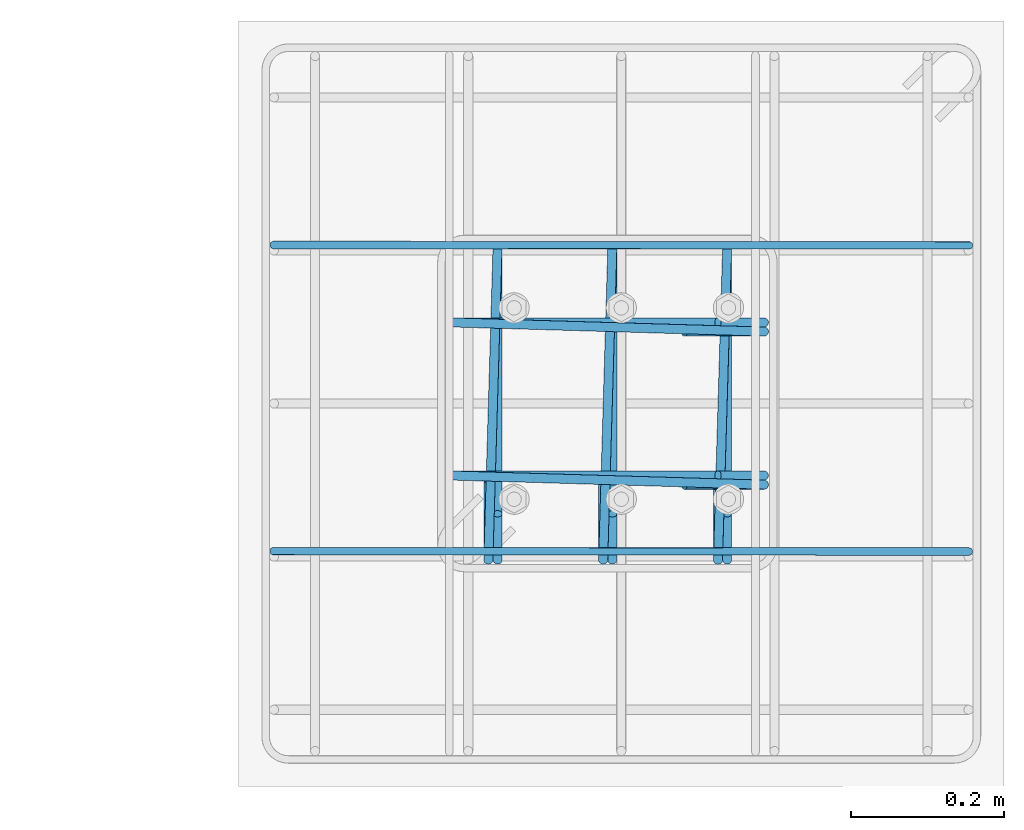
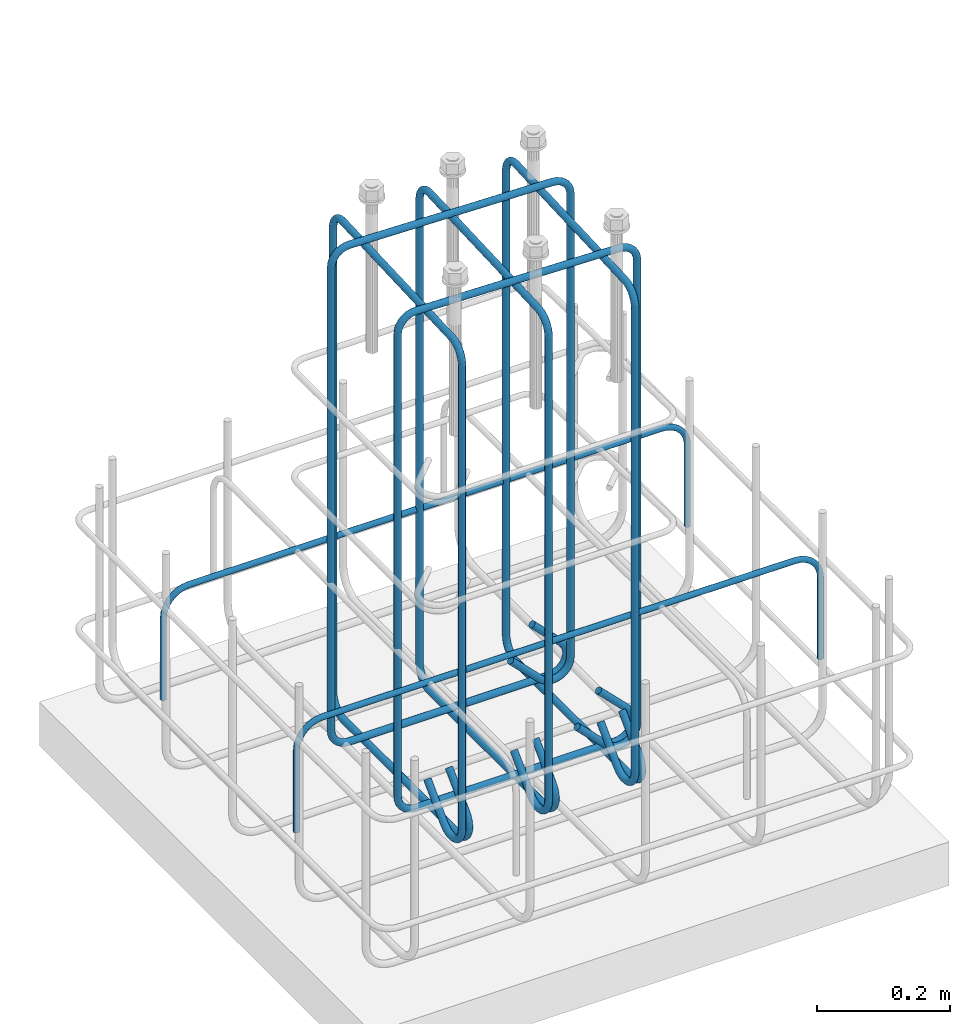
# One storey, part 10 of 12: 3 reinforcing bars.
"""IFC4X3_ADD2 building model written with IfcOpenShell, lengths in millimetres."""

from ifc_helpers import new_model, entity, si_unit, converted_unit, derived_unit, direction, frame, origin, place, context, subcontext, project, spatial, material, type_object, element, save


model = new_model("IFC4X3_ADD2")

# Units and contexts
model_context = context("Model", 3, precision=0.01, world=origin(), true_north=direction((6.123233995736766e-17, 1.0)))
plan_context = context("Plan", 3, precision=0.01, world=origin(), true_north=direction((6.123233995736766e-17, 1.0)))
body_context = subcontext(model_context, "Body", "Model", "MODEL_VIEW")
ifc_project = project(units=[si_unit("LENGTHUNIT", "METRE", prefix="MILLI"), converted_unit("PLANEANGLEUNIT", "DEGREE", entity("IfcPlaneAngleMeasure", 0.017453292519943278), si_unit("PLANEANGLEUNIT", "RADIAN"), dimensions=[0, 0, 0, 0, 0, 0, 0]), si_unit("AREAUNIT", "SQUARE_METRE"), si_unit("VOLUMEUNIT", "CUBIC_METRE"), derived_unit("THERMALTRANSMITTANCEUNIT", [(si_unit("MASSUNIT", "GRAM", prefix="KILO"), 1), (si_unit("THERMODYNAMICTEMPERATUREUNIT", "KELVIN"), -1), (si_unit("TIMEUNIT", "SECOND"), -3)]), derived_unit("USERDEFINED", [(si_unit("MASSUNIT", "GRAM", prefix="KILO"), 1), (si_unit("THERMODYNAMICTEMPERATUREUNIT", "KELVIN"), -1), (si_unit("TIMEUNIT", "SECOND"), -2)]), derived_unit("THERMALRESISTANCEUNIT", [(si_unit("MASSUNIT", "GRAM", prefix="KILO"), -1), (si_unit("TIMEUNIT", "SECOND"), 3), (si_unit("THERMODYNAMICTEMPERATUREUNIT", "KELVIN"), 1)]), si_unit("MASSUNIT", "GRAM", prefix="KILO"), derived_unit("MOMENTOFINERTIAUNIT", [(si_unit("LENGTHUNIT", "METRE"), 4)]), derived_unit("LINEARFORCEUNIT", [(si_unit("MASSUNIT", "GRAM", prefix="KILO"), 1), (si_unit("TIMEUNIT", "SECOND"), -2)]), derived_unit("WARPINGCONSTANTUNIT", [(si_unit("LENGTHUNIT", "METRE"), 6)]), si_unit("PRESSUREUNIT", "PASCAL"), derived_unit("MASSDENSITYUNIT", [(si_unit("MASSUNIT", "GRAM", prefix="KILO"), 1), (si_unit("LENGTHUNIT", "METRE"), -3)]), derived_unit("MODULUSOFELASTICITYUNIT", [(si_unit("MASSUNIT", "GRAM", prefix="KILO"), 1), (si_unit("TIMEUNIT", "SECOND"), -2), (si_unit("LENGTHUNIT", "METRE"), -1)]), derived_unit("THERMALEXPANSIONCOEFFICIENTUNIT", [(si_unit("THERMODYNAMICTEMPERATUREUNIT", "KELVIN"), -1)]), derived_unit("VAPORPERMEABILITYUNIT", [(si_unit("LENGTHUNIT", "METRE"), -1), (si_unit("TIMEUNIT", "SECOND"), 1)]), derived_unit("USERDEFINED", [(si_unit("MASSUNIT", "GRAM", prefix="KILO"), 1), (si_unit("TIMEUNIT", "SECOND"), -3), (si_unit("LENGTHUNIT", "METRE"), 3), (si_unit("ELECTRICCURRENTUNIT", "AMPERE"), -2)]), derived_unit("SPECIFICHEATCAPACITYUNIT", [(si_unit("THERMODYNAMICTEMPERATUREUNIT", "KELVIN"), -1), (si_unit("TIMEUNIT", "SECOND"), -2), (si_unit("LENGTHUNIT", "METRE"), 2)]), derived_unit("THERMALCONDUCTANCEUNIT", [(si_unit("MASSUNIT", "GRAM", prefix="KILO"), 1), (si_unit("THERMODYNAMICTEMPERATUREUNIT", "KELVIN"), -1), (si_unit("TIMEUNIT", "SECOND"), -3), (si_unit("LENGTHUNIT", "METRE"), 1)])], contexts=[model_context, plan_context])

# Site, building, storey
site_placement = place(None, origin())
site = spatial("IfcSite", under=ifc_project, at=site_placement, Name="Default", CompositionType="ELEMENT")
building_placement = place(site_placement, origin())
building = spatial("IfcBuilding", under=site, at=building_placement, Name="Complex structure", CompositionType="ELEMENT")
storey_placement = place(building_placement, frame((0.0, 0.0, -1200.0)))
storey = spatial("IfcBuildingStorey", under=building, at=storey_placement, Name="Level -03", CompositionType="ELEMENT", Elevation=-1200.0)

# Reinforcing bars
ifc_material = material(Name="Steel Rebar - B500A, B or C", Category="Unassigned")
reinforcing_bar_type_1 = type_object("IfcReinforcingBarType", Name="Rebar Bar:12mm", PredefinedType="NOTDEFINED")
reinforcing_bar_1_placement = place(storey_placement, origin())
ifc_direction_1 = entity("IfcDirection", [1.0, 0.0, 0.0])
ifc_direction_2 = entity("IfcDirection", [1.0, 0.0, 0.0])
ifc_direction_3 = entity("IfcDirection", [1.0, 0.0, 0.0])
element("IfcReinforcingBar", 1, at=reinforcing_bar_1_placement, inside=storey, type_object=reinforcing_bar_type_1, material=ifc_material, Name="Rebar Bar:12mm : Shape 52", ObjectType="Rebar Bar:12mm", context=body_context, shape_type="AdvancedSweptSolid", body=[
    entity("IfcSweptDiskSolid", entity("IfcCompositeCurve", [entity("IfcCompositeCurveSegment", "CONTINUOUS", True, entity("IfcPolyline", [entity("IfcCartesianPoint", [-1306.8715503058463, -1426.8753259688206, 151.83199846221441]), entity("IfcCartesianPoint", [-1306.8715503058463, -1477.787014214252, 100.92031021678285])])), entity("IfcCompositeCurveSegment", "CONTINUOUS", True, entity("IfcTrimmedCurve", entity("IfcCircle", entity("IfcAxis2Placement3D", entity("IfcCartesianPoint", [-1306.8715503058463, -1455.866703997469, 79.0]), ifc_direction_1, entity("IfcDirection", [0.0, -0.7071067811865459, -0.7071067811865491])), 31.0), [entity("IfcParameterValue", 269.9999999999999)], [entity("IfcParameterValue", 44.99999999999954)], True, "PARAMETER")), entity("IfcCompositeCurveSegment", "CONTINUOUS", True, entity("IfcPolyline", [entity("IfcCartesianPoint", [-1306.8715503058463, -1455.866703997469, 48.0]), entity("IfcCartesianPoint", [-1306.8715503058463, -1109.866703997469, 48.0])])), entity("IfcCompositeCurveSegment", "CONTINUOUS", True, entity("IfcTrimmedCurve", entity("IfcCircle", entity("IfcAxis2Placement3D", entity("IfcCartesianPoint", [-1306.8715503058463, -1109.866703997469, 79.0]), ifc_direction_1, entity("IfcDirection", [0.0, 1.0, 0.0])), 31.0), [entity("IfcParameterValue", 269.9999999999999)], [entity("IfcParameterValue", 360.00000000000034)], True, "PARAMETER")), entity("IfcCompositeCurveSegment", "CONTINUOUS", True, entity("IfcPolyline", [entity("IfcCartesianPoint", [-1306.8715503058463, -1078.866703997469, 79.0]), entity("IfcCartesianPoint", [-1306.8715503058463, -1078.866703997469, 930.0])])), entity("IfcCompositeCurveSegment", "CONTINUOUS", True, entity("IfcTrimmedCurve", entity("IfcCircle", entity("IfcAxis2Placement3D", entity("IfcCartesianPoint", [-1307.7829209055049, -1109.8533043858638, 930.0]), entity("IfcDirection", [0.9995677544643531, -0.02939905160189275, 0.0]), entity("IfcDirection", [0.0, 0.0, 1.0])), 31.0), [entity("IfcParameterValue", 269.9999999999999)], [entity("IfcParameterValue", 360.00000000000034)], True, "PARAMETER")), entity("IfcCompositeCurveSegment", "CONTINUOUS", True, entity("IfcPolyline", [entity("IfcCartesianPoint", [-1307.7829209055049, -1109.8533043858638, 961.0]), entity("IfcCartesianPoint", [-1317.9601797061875, -1455.8801036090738, 961.0])])), entity("IfcCompositeCurveSegment", "CONTINUOUS", True, entity("IfcTrimmedCurve", entity("IfcCircle", entity("IfcAxis2Placement3D", entity("IfcCartesianPoint", [-1317.9601797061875, -1455.8801036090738, 930.0]), entity("IfcDirection", [0.9995677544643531, -0.02939905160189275, 0.0]), entity("IfcDirection", [-0.02939905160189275, -0.9995677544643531, 0.0])), 31.0), [entity("IfcParameterValue", 269.9999999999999)], [entity("IfcParameterValue", 360.00000000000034)], True, "PARAMETER")), entity("IfcCompositeCurveSegment", "CONTINUOUS", True, entity("IfcPolyline", [entity("IfcCartesianPoint", [-1318.871550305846, -1486.866703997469, 930.0]), entity("IfcCartesianPoint", [-1318.871550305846, -1486.866703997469, 79.0])])), entity("IfcCompositeCurveSegment", "CONTINUOUS", True, entity("IfcTrimmedCurve", entity("IfcCircle", entity("IfcAxis2Placement3D", entity("IfcCartesianPoint", [-1318.871550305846, -1455.866703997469, 79.0]), ifc_direction_1, entity("IfcDirection", [0.0, 0.0, -1.0])), 31.0), [entity("IfcParameterValue", 269.9999999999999)], [entity("IfcParameterValue", 44.99999999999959)], True, "PARAMETER")), entity("IfcCompositeCurveSegment", "CONTINUOUS", True, entity("IfcPolyline", [entity("IfcCartesianPoint", [-1318.871550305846, -1433.9463937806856, 57.0796897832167]), entity("IfcCartesianPoint", [-1318.871550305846, -1383.0347055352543, 107.99137802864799])]))], False), 6.0, None, 0.0, 546.0000000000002),
    entity("IfcSweptDiskSolid", entity("IfcCompositeCurve", [entity("IfcCompositeCurveSegment", "CONTINUOUS", True, entity("IfcPolyline", [entity("IfcCartesianPoint", [-1156.8715503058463, -1426.8753259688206, 151.83199846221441]), entity("IfcCartesianPoint", [-1156.8715503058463, -1477.787014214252, 100.92031021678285])])), entity("IfcCompositeCurveSegment", "CONTINUOUS", True, entity("IfcTrimmedCurve", entity("IfcCircle", entity("IfcAxis2Placement3D", entity("IfcCartesianPoint", [-1156.8715503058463, -1455.866703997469, 79.0]), ifc_direction_2, entity("IfcDirection", [0.0, -0.7071067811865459, -0.7071067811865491])), 31.0), [entity("IfcParameterValue", 269.9999999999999)], [entity("IfcParameterValue", 44.99999999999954)], True, "PARAMETER")), entity("IfcCompositeCurveSegment", "CONTINUOUS", True, entity("IfcPolyline", [entity("IfcCartesianPoint", [-1156.8715503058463, -1455.866703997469, 48.0]), entity("IfcCartesianPoint", [-1156.8715503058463, -1109.866703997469, 48.0])])), entity("IfcCompositeCurveSegment", "CONTINUOUS", True, entity("IfcTrimmedCurve", entity("IfcCircle", entity("IfcAxis2Placement3D", entity("IfcCartesianPoint", [-1156.8715503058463, -1109.866703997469, 79.0]), ifc_direction_2, entity("IfcDirection", [0.0, 1.0, 0.0])), 31.0), [entity("IfcParameterValue", 269.9999999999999)], [entity("IfcParameterValue", 360.00000000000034)], True, "PARAMETER")), entity("IfcCompositeCurveSegment", "CONTINUOUS", True, entity("IfcPolyline", [entity("IfcCartesianPoint", [-1156.8715503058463, -1078.866703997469, 79.0]), entity("IfcCartesianPoint", [-1156.8715503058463, -1078.866703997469, 930.0])])), entity("IfcCompositeCurveSegment", "CONTINUOUS", True, entity("IfcTrimmedCurve", entity("IfcCircle", entity("IfcAxis2Placement3D", entity("IfcCartesianPoint", [-1157.7829209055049, -1109.8533043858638, 930.0]), entity("IfcDirection", [0.9995677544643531, -0.02939905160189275, 0.0]), entity("IfcDirection", [0.0, 0.0, 1.0])), 31.0), [entity("IfcParameterValue", 269.9999999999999)], [entity("IfcParameterValue", 360.00000000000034)], True, "PARAMETER")), entity("IfcCompositeCurveSegment", "CONTINUOUS", True, entity("IfcPolyline", [entity("IfcCartesianPoint", [-1157.7829209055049, -1109.8533043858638, 961.0]), entity("IfcCartesianPoint", [-1167.9601797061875, -1455.8801036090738, 961.0])])), entity("IfcCompositeCurveSegment", "CONTINUOUS", True, entity("IfcTrimmedCurve", entity("IfcCircle", entity("IfcAxis2Placement3D", entity("IfcCartesianPoint", [-1167.9601797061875, -1455.8801036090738, 930.0]), entity("IfcDirection", [0.9995677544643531, -0.02939905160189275, 0.0]), entity("IfcDirection", [-0.02939905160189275, -0.9995677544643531, 0.0])), 31.0), [entity("IfcParameterValue", 269.9999999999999)], [entity("IfcParameterValue", 360.00000000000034)], True, "PARAMETER")), entity("IfcCompositeCurveSegment", "CONTINUOUS", True, entity("IfcPolyline", [entity("IfcCartesianPoint", [-1168.871550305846, -1486.866703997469, 930.0]), entity("IfcCartesianPoint", [-1168.871550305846, -1486.866703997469, 79.0])])), entity("IfcCompositeCurveSegment", "CONTINUOUS", True, entity("IfcTrimmedCurve", entity("IfcCircle", entity("IfcAxis2Placement3D", entity("IfcCartesianPoint", [-1168.871550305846, -1455.866703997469, 79.0]), ifc_direction_2, entity("IfcDirection", [0.0, 0.0, -1.0])), 31.0), [entity("IfcParameterValue", 269.9999999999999)], [entity("IfcParameterValue", 44.99999999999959)], True, "PARAMETER")), entity("IfcCompositeCurveSegment", "CONTINUOUS", True, entity("IfcPolyline", [entity("IfcCartesianPoint", [-1168.871550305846, -1433.9463937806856, 57.0796897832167]), entity("IfcCartesianPoint", [-1168.871550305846, -1383.0347055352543, 107.99137802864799])]))], False), 6.0, None, 0.0, 546.0000000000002),
    entity("IfcSweptDiskSolid", entity("IfcCompositeCurve", [entity("IfcCompositeCurveSegment", "CONTINUOUS", True, entity("IfcPolyline", [entity("IfcCartesianPoint", [-1006.8715503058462, -1426.8753259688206, 151.83199846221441]), entity("IfcCartesianPoint", [-1006.8715503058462, -1477.787014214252, 100.92031021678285])])), entity("IfcCompositeCurveSegment", "CONTINUOUS", True, entity("IfcTrimmedCurve", entity("IfcCircle", entity("IfcAxis2Placement3D", entity("IfcCartesianPoint", [-1006.8715503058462, -1455.866703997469, 79.0]), ifc_direction_3, entity("IfcDirection", [0.0, -0.7071067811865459, -0.7071067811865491])), 31.0), [entity("IfcParameterValue", 269.9999999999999)], [entity("IfcParameterValue", 44.99999999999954)], True, "PARAMETER")), entity("IfcCompositeCurveSegment", "CONTINUOUS", True, entity("IfcPolyline", [entity("IfcCartesianPoint", [-1006.8715503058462, -1455.866703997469, 48.0]), entity("IfcCartesianPoint", [-1006.8715503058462, -1109.866703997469, 48.0])])), entity("IfcCompositeCurveSegment", "CONTINUOUS", True, entity("IfcTrimmedCurve", entity("IfcCircle", entity("IfcAxis2Placement3D", entity("IfcCartesianPoint", [-1006.8715503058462, -1109.866703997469, 79.0]), ifc_direction_3, entity("IfcDirection", [0.0, 1.0, 0.0])), 31.0), [entity("IfcParameterValue", 269.9999999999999)], [entity("IfcParameterValue", 360.00000000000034)], True, "PARAMETER")), entity("IfcCompositeCurveSegment", "CONTINUOUS", True, entity("IfcPolyline", [entity("IfcCartesianPoint", [-1006.8715503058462, -1078.866703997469, 79.0]), entity("IfcCartesianPoint", [-1006.8715503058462, -1078.866703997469, 930.0])])), entity("IfcCompositeCurveSegment", "CONTINUOUS", True, entity("IfcTrimmedCurve", entity("IfcCircle", entity("IfcAxis2Placement3D", entity("IfcCartesianPoint", [-1007.7829209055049, -1109.8533043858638, 930.0]), entity("IfcDirection", [0.9995677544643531, -0.02939905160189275, 0.0]), entity("IfcDirection", [0.0, 0.0, 1.0])), 31.0), [entity("IfcParameterValue", 269.9999999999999)], [entity("IfcParameterValue", 360.00000000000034)], True, "PARAMETER")), entity("IfcCompositeCurveSegment", "CONTINUOUS", True, entity("IfcPolyline", [entity("IfcCartesianPoint", [-1007.7829209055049, -1109.8533043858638, 961.0]), entity("IfcCartesianPoint", [-1017.9601797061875, -1455.8801036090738, 961.0])])), entity("IfcCompositeCurveSegment", "CONTINUOUS", True, entity("IfcTrimmedCurve", entity("IfcCircle", entity("IfcAxis2Placement3D", entity("IfcCartesianPoint", [-1017.9601797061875, -1455.8801036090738, 930.0]), entity("IfcDirection", [0.9995677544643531, -0.02939905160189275, 0.0]), entity("IfcDirection", [-0.02939905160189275, -0.9995677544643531, 0.0])), 31.0), [entity("IfcParameterValue", 269.9999999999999)], [entity("IfcParameterValue", 360.00000000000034)], True, "PARAMETER")), entity("IfcCompositeCurveSegment", "CONTINUOUS", True, entity("IfcPolyline", [entity("IfcCartesianPoint", [-1018.8715503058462, -1486.866703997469, 930.0]), entity("IfcCartesianPoint", [-1018.8715503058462, -1486.866703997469, 79.0])])), entity("IfcCompositeCurveSegment", "CONTINUOUS", True, entity("IfcTrimmedCurve", entity("IfcCircle", entity("IfcAxis2Placement3D", entity("IfcCartesianPoint", [-1018.8715503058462, -1455.866703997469, 79.0]), ifc_direction_3, entity("IfcDirection", [0.0, 0.0, -1.0])), 31.0), [entity("IfcParameterValue", 269.9999999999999)], [entity("IfcParameterValue", 44.99999999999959)], True, "PARAMETER")), entity("IfcCompositeCurveSegment", "CONTINUOUS", True, entity("IfcPolyline", [entity("IfcCartesianPoint", [-1018.8715503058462, -1433.9463937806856, 57.0796897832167]), entity("IfcCartesianPoint", [-1018.8715503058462, -1383.0347055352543, 107.99137802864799])]))], False), 6.0, None, 0.0, 546.0000000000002),
])
reinforcing_bar_2_placement = place(storey_placement, origin())
ifc_direction_4 = entity("IfcDirection", [0.0, 1.0, 0.0])
ifc_direction_5 = entity("IfcDirection", [0.0, 1.0, 0.0])
element("IfcReinforcingBar", 2, at=reinforcing_bar_2_placement, inside=storey, type_object=reinforcing_bar_type_1, material=ifc_material, Name="Rebar Bar:12mm : Shape 52", ObjectType="Rebar Bar:12mm", context=body_context, shape_type="AdvancedSweptSolid", body=[
    entity("IfcSweptDiskSolid", entity("IfcCompositeCurve", [entity("IfcCompositeCurveSegment", "CONTINUOUS", True, entity("IfcPolyline", [entity("IfcCartesianPoint", [-1018.8629283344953, -1376.86670399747, 161.83199846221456]), entity("IfcCartesianPoint", [-967.951240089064, -1376.8667039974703, 110.92031021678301])])), entity("IfcCompositeCurveSegment", "CONTINUOUS", True, entity("IfcTrimmedCurve", entity("IfcCircle", entity("IfcAxis2Placement3D", entity("IfcCartesianPoint", [-989.8715503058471, -1376.8667039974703, 89.0]), ifc_direction_4, entity("IfcDirection", [0.7071067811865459, 0.0, -0.7071067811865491])), 31.0), [entity("IfcParameterValue", 269.9999999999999)], [entity("IfcParameterValue", 44.99999999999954)], True, "PARAMETER")), entity("IfcCompositeCurveSegment", "CONTINUOUS", True, entity("IfcPolyline", [entity("IfcCartesianPoint", [-989.8715503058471, -1376.8667039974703, 58.0]), entity("IfcCartesianPoint", [-1335.871550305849, -1376.8667039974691, 58.0])])), entity("IfcCompositeCurveSegment", "CONTINUOUS", True, entity("IfcTrimmedCurve", entity("IfcCircle", entity("IfcAxis2Placement3D", entity("IfcCartesianPoint", [-1335.871550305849, -1376.8667039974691, 89.0]), ifc_direction_4, entity("IfcDirection", [-1.0, 0.0, 0.0])), 31.0), [entity("IfcParameterValue", 269.9999999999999)], [entity("IfcParameterValue", 360.00000000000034)], True, "PARAMETER")), entity("IfcCompositeCurveSegment", "CONTINUOUS", True, entity("IfcPolyline", [entity("IfcCartesianPoint", [-1366.871550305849, -1376.8667039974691, 89.0]), entity("IfcCartesianPoint", [-1366.871550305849, -1376.8667039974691, 938.0])])), entity("IfcCompositeCurveSegment", "CONTINUOUS", True, entity("IfcTrimmedCurve", entity("IfcCircle", entity("IfcAxis2Placement3D", entity("IfcCartesianPoint", [-1335.8849499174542, -1377.778074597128, 938.0]), entity("IfcDirection", [0.029399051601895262, 0.9995677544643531, 0.0]), entity("IfcDirection", [0.0, 0.0, 1.0])), 31.0), [entity("IfcParameterValue", 269.9999999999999)], [entity("IfcParameterValue", 360.00000000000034)], True, "PARAMETER")), entity("IfcCompositeCurveSegment", "CONTINUOUS", True, entity("IfcPolyline", [entity("IfcCartesianPoint", [-1335.8849499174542, -1377.778074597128, 969.0]), entity("IfcCartesianPoint", [-989.858150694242, -1387.9553333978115, 969.0])])), entity("IfcCompositeCurveSegment", "CONTINUOUS", True, entity("IfcTrimmedCurve", entity("IfcCircle", entity("IfcAxis2Placement3D", entity("IfcCartesianPoint", [-989.858150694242, -1387.9553333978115, 938.0]), entity("IfcDirection", [0.029399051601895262, 0.9995677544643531, 0.0]), entity("IfcDirection", [0.9995677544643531, -0.029399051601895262, 0.0])), 31.0), [entity("IfcParameterValue", 269.9999999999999)], [entity("IfcParameterValue", 360.00000000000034)], True, "PARAMETER")), entity("IfcCompositeCurveSegment", "CONTINUOUS", True, entity("IfcPolyline", [entity("IfcCartesianPoint", [-958.8715503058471, -1388.8667039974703, 938.0]), entity("IfcCartesianPoint", [-958.8715503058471, -1388.8667039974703, 89.0])])), entity("IfcCompositeCurveSegment", "CONTINUOUS", True, entity("IfcTrimmedCurve", entity("IfcCircle", entity("IfcAxis2Placement3D", entity("IfcCartesianPoint", [-989.8715503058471, -1388.8667039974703, 89.0]), ifc_direction_4, entity("IfcDirection", [0.0, 0.0, -1.0])), 31.0), [entity("IfcParameterValue", 269.9999999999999)], [entity("IfcParameterValue", 44.99999999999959)], True, "PARAMETER")), entity("IfcCompositeCurveSegment", "CONTINUOUS", True, entity("IfcPolyline", [entity("IfcCartesianPoint", [-1011.79186052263, -1388.86670399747, 67.07968978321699]), entity("IfcCartesianPoint", [-1062.7035487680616, -1388.8667039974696, 117.99137802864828])]))], False), 6.0, None, 0.0, 546.0000000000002),
    entity("IfcSweptDiskSolid", entity("IfcCompositeCurve", [entity("IfcCompositeCurveSegment", "CONTINUOUS", True, entity("IfcPolyline", [entity("IfcCartesianPoint", [-1018.8629283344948, -1176.86670399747, 161.83199846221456]), entity("IfcCartesianPoint", [-967.9512400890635, -1176.8667039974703, 110.92031021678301])])), entity("IfcCompositeCurveSegment", "CONTINUOUS", True, entity("IfcTrimmedCurve", entity("IfcCircle", entity("IfcAxis2Placement3D", entity("IfcCartesianPoint", [-989.8715503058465, -1176.8667039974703, 89.0]), ifc_direction_5, entity("IfcDirection", [0.7071067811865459, 0.0, -0.7071067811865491])), 31.0), [entity("IfcParameterValue", 269.9999999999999)], [entity("IfcParameterValue", 44.99999999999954)], True, "PARAMETER")), entity("IfcCompositeCurveSegment", "CONTINUOUS", True, entity("IfcPolyline", [entity("IfcCartesianPoint", [-989.8715503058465, -1176.86670399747, 58.0]), entity("IfcCartesianPoint", [-1335.8715503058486, -1176.8667039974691, 58.0])])), entity("IfcCompositeCurveSegment", "CONTINUOUS", True, entity("IfcTrimmedCurve", entity("IfcCircle", entity("IfcAxis2Placement3D", entity("IfcCartesianPoint", [-1335.8715503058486, -1176.8667039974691, 89.0]), ifc_direction_5, entity("IfcDirection", [-1.0, 0.0, 0.0])), 31.0), [entity("IfcParameterValue", 269.9999999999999)], [entity("IfcParameterValue", 360.00000000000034)], True, "PARAMETER")), entity("IfcCompositeCurveSegment", "CONTINUOUS", True, entity("IfcPolyline", [entity("IfcCartesianPoint", [-1366.8715503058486, -1176.8667039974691, 89.0]), entity("IfcCartesianPoint", [-1366.8715503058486, -1176.8667039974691, 938.0])])), entity("IfcCompositeCurveSegment", "CONTINUOUS", True, entity("IfcTrimmedCurve", entity("IfcCircle", entity("IfcAxis2Placement3D", entity("IfcCartesianPoint", [-1335.8849499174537, -1177.778074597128, 938.0]), entity("IfcDirection", [0.029399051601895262, 0.9995677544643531, 0.0]), entity("IfcDirection", [0.0, 0.0, 1.0])), 31.0), [entity("IfcParameterValue", 269.9999999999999)], [entity("IfcParameterValue", 360.00000000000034)], True, "PARAMETER")), entity("IfcCompositeCurveSegment", "CONTINUOUS", True, entity("IfcPolyline", [entity("IfcCartesianPoint", [-1335.8849499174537, -1177.778074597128, 969.0]), entity("IfcCartesianPoint", [-989.8581506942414, -1187.9553333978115, 969.0])])), entity("IfcCompositeCurveSegment", "CONTINUOUS", True, entity("IfcTrimmedCurve", entity("IfcCircle", entity("IfcAxis2Placement3D", entity("IfcCartesianPoint", [-989.8581506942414, -1187.9553333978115, 938.0]), entity("IfcDirection", [0.029399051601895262, 0.9995677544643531, 0.0]), entity("IfcDirection", [0.9995677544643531, -0.029399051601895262, 0.0])), 31.0), [entity("IfcParameterValue", 269.9999999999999)], [entity("IfcParameterValue", 360.00000000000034)], True, "PARAMETER")), entity("IfcCompositeCurveSegment", "CONTINUOUS", True, entity("IfcPolyline", [entity("IfcCartesianPoint", [-958.8715503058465, -1188.8667039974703, 938.0]), entity("IfcCartesianPoint", [-958.8715503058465, -1188.8667039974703, 89.0])])), entity("IfcCompositeCurveSegment", "CONTINUOUS", True, entity("IfcTrimmedCurve", entity("IfcCircle", entity("IfcAxis2Placement3D", entity("IfcCartesianPoint", [-989.8715503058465, -1188.8667039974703, 89.0]), ifc_direction_5, entity("IfcDirection", [0.0, 0.0, -1.0])), 31.0), [entity("IfcParameterValue", 269.9999999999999)], [entity("IfcParameterValue", 44.99999999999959)], True, "PARAMETER")), entity("IfcCompositeCurveSegment", "CONTINUOUS", True, entity("IfcPolyline", [entity("IfcCartesianPoint", [-1011.7918605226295, -1188.86670399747, 67.07968978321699]), entity("IfcCartesianPoint", [-1062.703548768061, -1188.8667039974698, 117.99137802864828])]))], False), 6.0, None, 0.0, 546.0000000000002),
])
reinforcing_bar_type_2 = type_object("IfcReinforcingBarType", Name="Rebar Bar:10mm", PredefinedType="NOTDEFINED")
reinforcing_bar_3_placement = place(storey_placement, origin())
element("IfcReinforcingBar", 3, at=reinforcing_bar_3_placement, inside=storey, type_object=reinforcing_bar_type_2, material=ifc_material, Name="Rebar Bar:10mm : Shape 21", ObjectType="Rebar Bar:10mm", context=body_context, shape_type="AdvancedSweptSolid", body=[
    entity("IfcSweptDiskSolid", entity("IfcCompositeCurve", [entity("IfcCompositeCurveSegment", "CONTINUOUS", True, entity("IfcPolyline", [entity("IfcCartesianPoint", [-691.3486374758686, -1476.1953828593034, 167.0]), entity("IfcCartesianPoint", [-691.3486374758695, -1476.1953828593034, 316.0])])), entity("IfcCompositeCurveSegment", "CONTINUOUS", True, entity("IfcTrimmedCurve", entity("IfcCircle", entity("IfcAxis2Placement3D", entity("IfcCartesianPoint", [-736.3486310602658, -1476.1713536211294, 316.0]), entity("IfcDirection", [-0.0005339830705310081, -0.99999985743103, 0.0]), entity("IfcDirection", [0.0, 0.0, 1.0])), 45.0), [entity("IfcParameterValue", 269.9999999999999)], [entity("IfcParameterValue", 360.00000000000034)], True, "PARAMETER")), entity("IfcCompositeCurveSegment", "CONTINUOUS", True, entity("IfcPolyline", [entity("IfcCartesianPoint", [-736.3486310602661, -1476.1713536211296, 361.0]), entity("IfcCartesianPoint", [-1554.3482555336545, -1475.7345556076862, 361.0])])), entity("IfcCompositeCurveSegment", "CONTINUOUS", True, entity("IfcTrimmedCurve", entity("IfcCircle", entity("IfcAxis2Placement3D", entity("IfcCartesianPoint", [-1554.348255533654, -1475.7345556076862, 316.0]), entity("IfcDirection", [-0.0005339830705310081, -0.99999985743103, 0.0]), entity("IfcDirection", [-0.99999985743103, 0.0005339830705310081, 0.0])), 45.0), [entity("IfcParameterValue", 269.9999999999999)], [entity("IfcParameterValue", 360.00000000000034)], True, "PARAMETER")), entity("IfcCompositeCurveSegment", "CONTINUOUS", True, entity("IfcPolyline", [entity("IfcCartesianPoint", [-1599.3482491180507, -1475.710526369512, 316.0]), entity("IfcCartesianPoint", [-1599.3482491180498, -1475.710526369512, 167.0])]))], False), 5.0, None, 0.0, 183.00000000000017),
    entity("IfcSweptDiskSolid", entity("IfcCompositeCurve", [entity("IfcCompositeCurveSegment", "CONTINUOUS", True, entity("IfcPolyline", [entity("IfcCartesianPoint", [-691.1350442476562, -1076.1954398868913, 167.0]), entity("IfcCartesianPoint", [-691.1350442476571, -1076.1954398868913, 316.0])])), entity("IfcCompositeCurveSegment", "CONTINUOUS", True, entity("IfcTrimmedCurve", entity("IfcCircle", entity("IfcAxis2Placement3D", entity("IfcCartesianPoint", [-736.1350378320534, -1076.1714106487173, 316.0]), entity("IfcDirection", [-0.0005339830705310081, -0.99999985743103, 0.0]), entity("IfcDirection", [0.0, 0.0, 1.0])), 45.0), [entity("IfcParameterValue", 269.9999999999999)], [entity("IfcParameterValue", 360.00000000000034)], True, "PARAMETER")), entity("IfcCompositeCurveSegment", "CONTINUOUS", True, entity("IfcPolyline", [entity("IfcCartesianPoint", [-736.1350378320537, -1076.1714106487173, 361.0]), entity("IfcCartesianPoint", [-1554.1346623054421, -1075.734612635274, 361.0])])), entity("IfcCompositeCurveSegment", "CONTINUOUS", True, entity("IfcTrimmedCurve", entity("IfcCircle", entity("IfcAxis2Placement3D", entity("IfcCartesianPoint", [-1554.1346623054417, -1075.734612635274, 316.0]), entity("IfcDirection", [-0.0005339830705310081, -0.99999985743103, 0.0]), entity("IfcDirection", [-0.99999985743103, 0.0005339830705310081, 0.0])), 45.0), [entity("IfcParameterValue", 269.9999999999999)], [entity("IfcParameterValue", 360.00000000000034)], True, "PARAMETER")), entity("IfcCompositeCurveSegment", "CONTINUOUS", True, entity("IfcPolyline", [entity("IfcCartesianPoint", [-1599.1346558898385, -1075.7105833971, 316.0]), entity("IfcCartesianPoint", [-1599.1346558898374, -1075.7105833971, 167.0])]))], False), 5.0, None, 0.0, 183.00000000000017),
])

save(model, "model.ifc")
